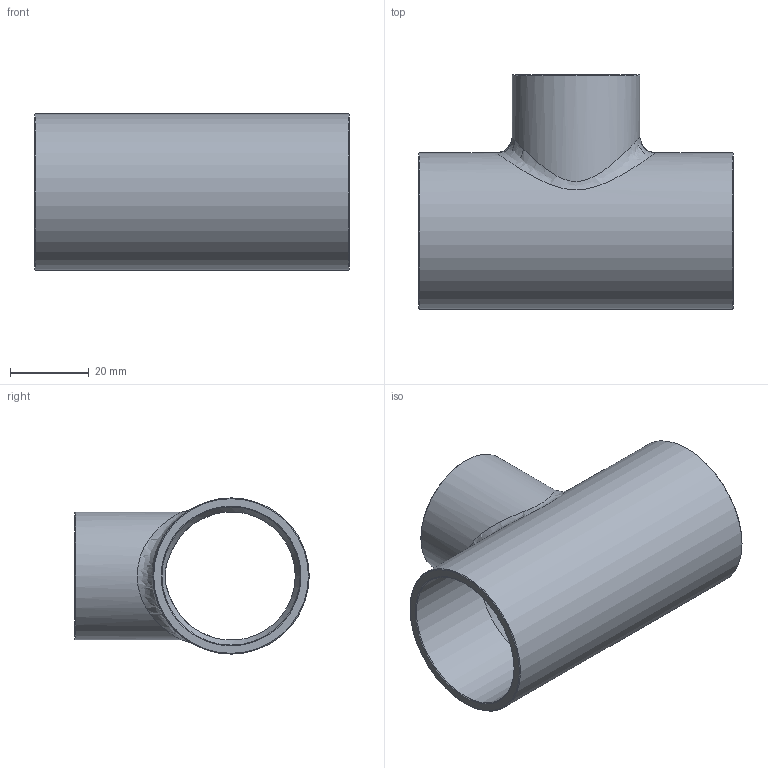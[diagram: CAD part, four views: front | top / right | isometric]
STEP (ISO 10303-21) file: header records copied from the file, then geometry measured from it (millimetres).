
FILE_DESCRIPTION((''),'2;1');
FILE_NAME('G:\SANHA-Ternat\Technik\Management\Bouwmaten + markeringen\z-maattekeningen 3D\29000s\29130138118138_3d.stp','2017-08-03T11:09:13',('vdvijverd'),(''),'Autodesk Inventor 2009','Autodesk Inventor 2009','');
FILE_SCHEMA(('AUTOMOTIVE_DESIGN { 1 0 10303 214 1 1 1 1 }'));
Length unit declared in the file: millimetre
Products named in the file (1): 29130138118138_3d
Bounding box: 80 x 59.55 x 39.7 mm (x, y, z)
Volume: 28073.9 mm3; surface area: 22391.3 mm2
Topology: 1 solids, 1 shells, 22 faces, 56 edges, 35 vertices
Faces by surface type: cone 8, cylinder 7, bspline 4, plane 3
Full cylindrical faces by diameter (mm): 28.725 x1, 32.5 x1, 35.105 x1, 39.7 x1
Entity records: 2149 total; most frequent: CARTESIAN_POINT 1702, DIRECTION 84, ORIENTED_EDGE 70, AXIS2_PLACEMENT_3D 42, EDGE_LOOP 40, EDGE_CURVE 35, VERTEX_POINT 29, CIRCLE 23
